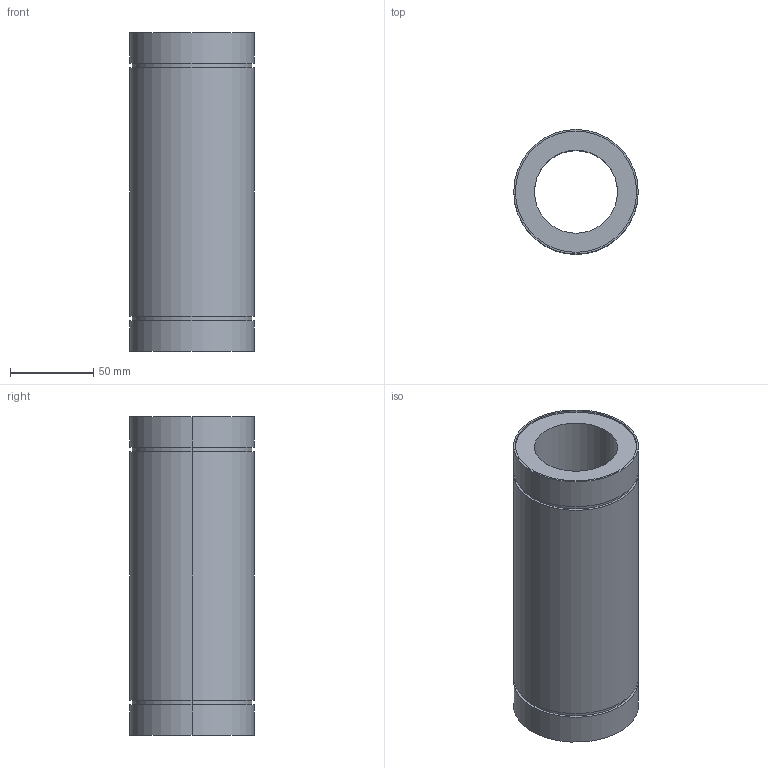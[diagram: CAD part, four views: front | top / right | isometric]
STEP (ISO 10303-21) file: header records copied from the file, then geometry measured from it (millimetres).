
FILE_DESCRIPTION((''),'2;1');
FILE_NAME('C:\Documents and Settings\ｿﾀﾀ蠑ｷ1\ｹﾙﾅﾁ ﾈｭｸ饅\ｺﾎﾇｰﾆﾄﾀﾏ\ﾁｦﾇｰ\LME__LUU\LME50LUU.stp','2005-06-14T18:39:46',('ｿﾀﾀ蠑ｷ1'),(''),'Autodesk Inventor 9','Autodesk Inventor 9','');
FILE_SCHEMA(('AUTOMOTIVE_DESIGN { 1 0 10303 214 1 1 1 1 }'));
Length unit declared in the file: millimetre
Products named in the file (1): LME__
Bounding box: 75 x 75 x 192 mm (x, y, z)
Volume: 464959.4 mm3; surface area: 81787 mm2
Topology: 1 solids, 1 shells, 24 faces, 48 edges, 32 vertices
Faces by surface type: cylinder 16, plane 8
Entity records: 671 total; most frequent: DIRECTION 130, CARTESIAN_POINT 105, ORIENTED_EDGE 96, AXIS2_PLACEMENT_3D 57, EDGE_CURVE 48, VERTEX_POINT 32, CIRCLE 32, EDGE_LOOP 32
